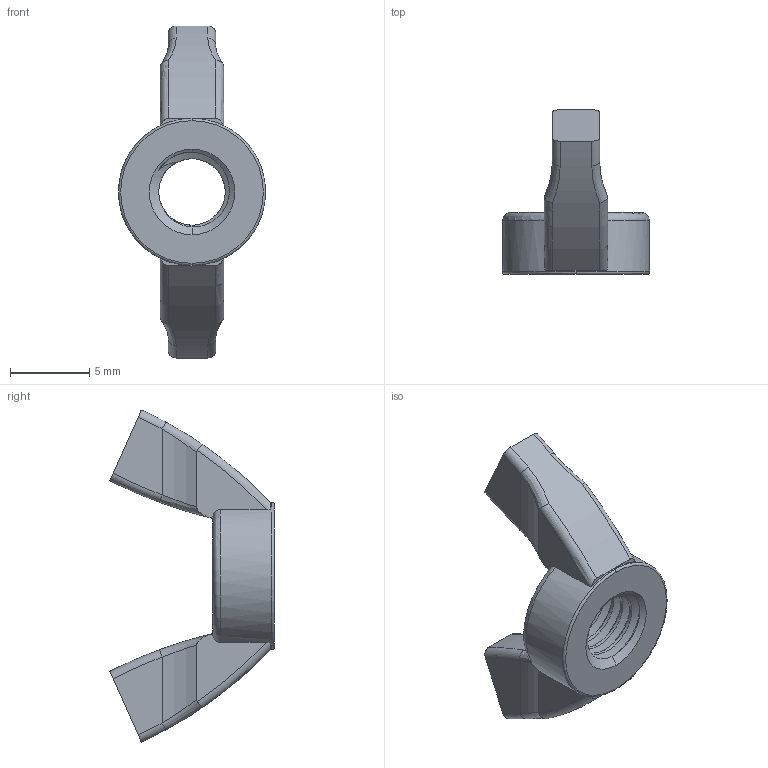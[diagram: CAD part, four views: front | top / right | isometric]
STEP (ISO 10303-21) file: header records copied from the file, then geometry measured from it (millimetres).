
FILE_DESCRIPTION (( 'STEP AP203' ), '1' );
FILE_NAME ('TANC-304-M5.STEP', '2026-08-24T08:17:30', ( '' ), ( '' ), 'SwSTEP 2.0', 'SolidWorks 2020', '' );
FILE_SCHEMA (( 'CONFIG_CONTROL_DESIGN' ));
Length unit declared in the file: millimetre
Products named in the file (1): TANC-304-M5
Bounding box: 9.3 x 10.4 x 21 mm (x, y, z)
Volume: 430.6 mm3; surface area: 534.1 mm2
Topology: 1 solids, 1 shells, 67 faces, 180 edges, 115 vertices
Faces by surface type: cylinder 19, torus 16, plane 16, bspline 11, cone 5
Entity records: 3699 total; most frequent: CARTESIAN_POINT 2117, ORIENTED_EDGE 360, DIRECTION 269, EDGE_CURVE 180, VERTEX_POINT 115, AXIS2_PLACEMENT_3D 114, EDGE_LOOP 69, ADVANCED_FACE 67
